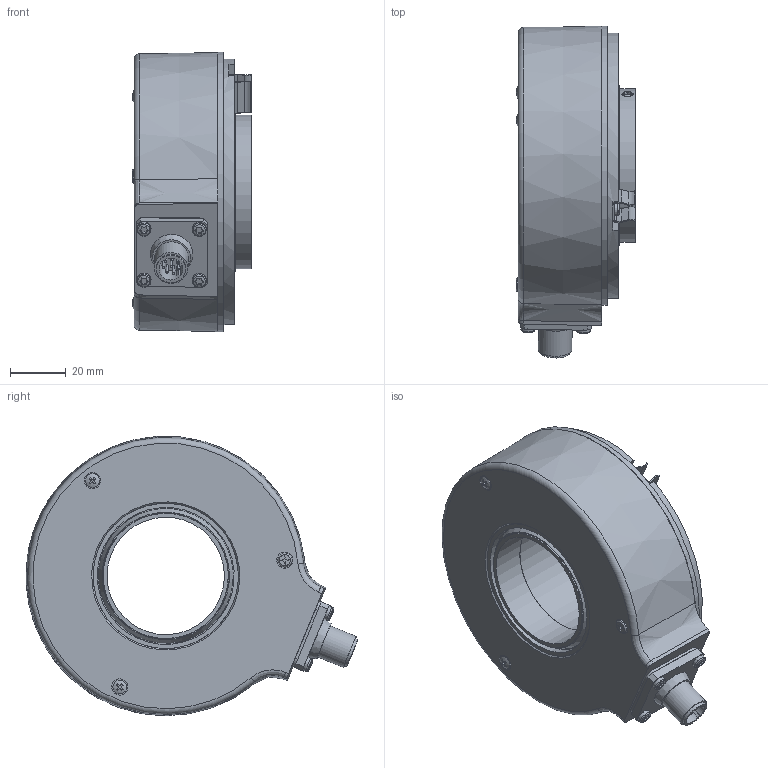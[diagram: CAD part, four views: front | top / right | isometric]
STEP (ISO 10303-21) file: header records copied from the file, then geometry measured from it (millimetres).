
FILE_DESCRIPTION (( 'STEP AP203' ), '1' );
FILE_NAME ('8.A020.21XE.XXXX.STEP', '2013-07-08T12:46:51', ( 'Hodot' ), ( '' ), 'SwSTEP 2.0', 'SolidWorks 2012', '' );
FILE_SCHEMA (( 'CONFIG_CONTROL_DESIGN' ));
Length unit declared in the file: millimetre
Products named in the file (1): 8.A020.21XE.XXXX
Bounding box: 42.8 x 118.73 x 99.95 mm (x, y, z)
Volume: 135426.9 mm3; surface area: 87544.9 mm2
Topology: 22 solids, 22 shells, 572 faces, 1391 edges, 917 vertices
Faces by surface type: plane 297, cylinder 137, cone 70, sphere 38, torus 26, bspline 4
Full cylindrical faces by diameter (mm): 0.8 x8, 2.05 x5, 2.5 x27, 2.7 x4, 2.8 x4, 3 x6, 3.04 x3, 3.3 x5, 4 x2, 5 x6, 5.8 x3, 10.5 x2, 12 x1, 20 x1, 20.5 x1, 42 x2, 42.3 x1, 42.8 x1, 43.5 x3, 44.8 x1, 45 x3, 48 x1, 48.7 x1, 49 x3, 52 x2, 54.5 x1, 55 x1, 56 x2, 58 x2, 60 x1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
Entity records: 17253 total; most frequent: CARTESIAN_POINT 5072, DIRECTION 2538, ORIENTED_EDGE 2070, EDGE_CURVE 1035, AXIS2_PLACEMENT_3D 1024, EDGE_LOOP 963, VERTEX_POINT 802, FACE_OUTER_BOUND 731
